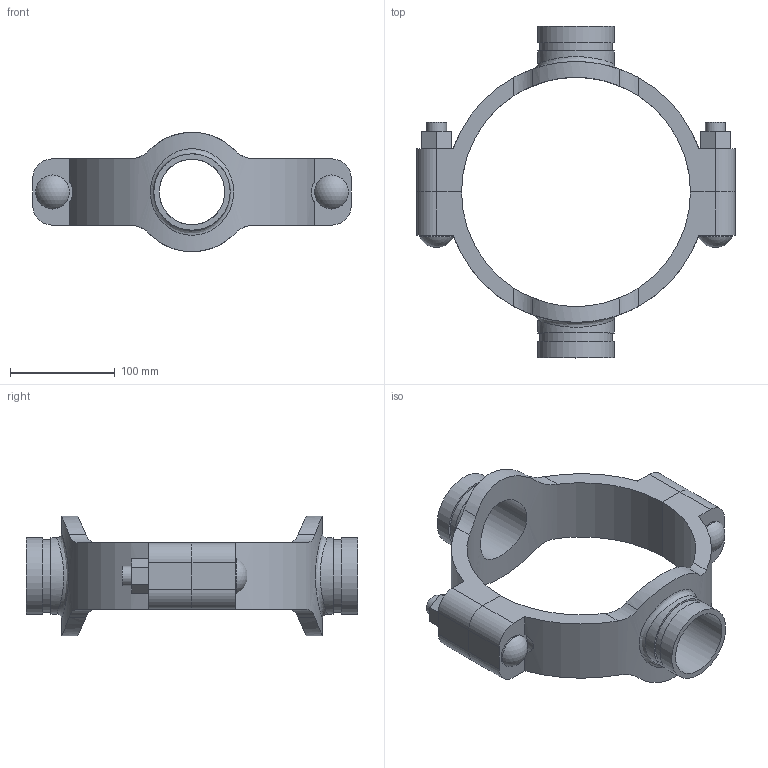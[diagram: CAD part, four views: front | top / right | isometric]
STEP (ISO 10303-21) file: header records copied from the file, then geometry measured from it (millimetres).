
FILE_DESCRIPTION(/* description */ ('VIC MECH-T BRANCH OUTLET CROSS STYLE 920N (GRVD)','CAx-IF Rec.Pracs.---Representation and Presentation of Product Manufacturing Information (PMI)---4.0---2014-10-13'),/* implementation_level */ '2;1');
FILE_NAME(/* name */ 'C:\Users\Vjadhav\AppData\Roaming\Autodesk\ApplicationPlugins\Back Up\Victaulic_IPS_Mechanical-Cross Outlet_Style 920N (OGS)\Victaulic_IPS_Mechanical-Cross Outlet_08.0x02.5x02.5 (200x65x65).stp',/* time_stamp */ '2020-08-06T19:45:54+05:00',/* author */ ('Vjadhav'),/* organization */ ('Victaulic'),/* preprocessor_version */ 'ST-DEVELOPER v17.2',/* originating_system */ 'Autodesk Inventor 2019',/* authorisation */ '');
FILE_SCHEMA (('AP242_MANAGED_MODEL_BASED_3D_ENGINEERING_MIM_LF { 1 0 10303 442 1 1 4 }'));
Length unit declared in the file: inch
Products named in the file (3): 920NG-08.0x02.5x02.5; 920G-08.0x02.5; 920G-08.0x02.5_1
Assembly tree (2 placements, depth 2):
  920NG-08.0x02.5x02.5
    920G-08.0x02.5
    920G-08.0x02.5_1
Bounding box: 304.8 x 317.5 x 114.19 mm (x, y, z)
Volume: 1081026.4 mm3; surface area: 210938.3 mm2
Topology: 2 solids, 2 shells, 108 faces, 274 edges, 186 vertices
Faces by surface type: plane 54, cylinder 50, sphere 2, bspline 2
Full cylindrical faces by diameter (mm): 19.05 x4, 32.537 x2, 62.738 x2, 69.088 x2, 73.025 x4
Entity records: 4326 total; most frequent: CARTESIAN_POINT 1445, DIRECTION 552, ORIENTED_EDGE 548, EDGE_CURVE 274, AXIS2_PLACEMENT_3D 201, VERTEX_POINT 186, LINE 150, VECTOR 150
